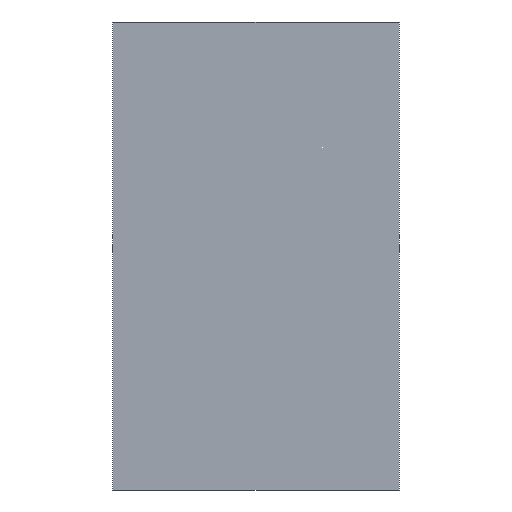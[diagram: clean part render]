
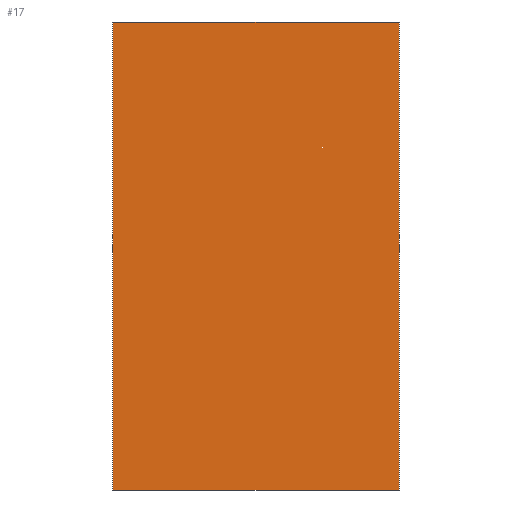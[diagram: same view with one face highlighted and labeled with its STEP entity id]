
A CAD part, left-side view. The second image highlights one B-rep face of the part: STEP entity #17.
In plain terms, the highlighted planar face has unit normal (-1, 0, 0).
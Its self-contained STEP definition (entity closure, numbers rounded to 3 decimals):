
#17 = ADVANCED_FACE('',(#18),#32,.F.);
#18 = FACE_BOUND('',#19,.F.);
#19 = EDGE_LOOP('',(#20,#55,#83,#111));
#20 = ORIENTED_EDGE('',*,*,#21,.F.);
#21 = EDGE_CURVE('',#22,#24,#26,.T.);
#22 = VERTEX_POINT('',#23);
#23 = CARTESIAN_POINT('',(-63.,-25.,-189.));
#24 = VERTEX_POINT('',#25);
#25 = CARTESIAN_POINT('',(-63.,-25.,-127.));
#26 = SURFACE_CURVE('',#27,(#31,#43),.PCURVE_S1.);
#27 = LINE('',#28,#29);
#28 = CARTESIAN_POINT('',(-63.,-25.,-189.));
#29 = VECTOR('',#30,1.);
#30 = DIRECTION('',(0.,0.,1.));
#31 = PCURVE('',#32,#37);
#32 = PLANE('',#33);
#33 = AXIS2_PLACEMENT_3D('',#34,#35,#36);
#34 = CARTESIAN_POINT('',(-63.,-25.,-189.));
#35 = DIRECTION('',(1.,0.,0.));
#36 = DIRECTION('',(0.,0.,1.));
#37 = DEFINITIONAL_REPRESENTATION('',(#38),#42);
#38 = LINE('',#39,#40);
#39 = CARTESIAN_POINT('',(0.,0.));
#40 = VECTOR('',#41,1.);
#41 = DIRECTION('',(1.,0.));
#42 = ( GEOMETRIC_REPRESENTATION_CONTEXT(2) 
PARAMETRIC_REPRESENTATION_CONTEXT() REPRESENTATION_CONTEXT('2D SPACE',''
  ) );
#43 = PCURVE('',#44,#49);
#44 = PLANE('',#45);
#45 = AXIS2_PLACEMENT_3D('',#46,#47,#48);
#46 = CARTESIAN_POINT('',(-63.,-25.,-189.));
#47 = DIRECTION('',(0.,1.,0.));
#48 = DIRECTION('',(0.,0.,1.));
#49 = DEFINITIONAL_REPRESENTATION('',(#50),#54);
#50 = LINE('',#51,#52);
#51 = CARTESIAN_POINT('',(0.,0.));
#52 = VECTOR('',#53,1.);
#53 = DIRECTION('',(1.,0.));
#54 = ( GEOMETRIC_REPRESENTATION_CONTEXT(2) 
PARAMETRIC_REPRESENTATION_CONTEXT() REPRESENTATION_CONTEXT('2D SPACE',''
  ) );
#55 = ORIENTED_EDGE('',*,*,#56,.T.);
#56 = EDGE_CURVE('',#22,#57,#59,.T.);
#57 = VERTEX_POINT('',#58);
#58 = CARTESIAN_POINT('',(-63.,13.,-189.));
#59 = SURFACE_CURVE('',#60,(#64,#71),.PCURVE_S1.);
#60 = LINE('',#61,#62);
#61 = CARTESIAN_POINT('',(-63.,-25.,-189.));
#62 = VECTOR('',#63,1.);
#63 = DIRECTION('',(0.,1.,0.));
#64 = PCURVE('',#32,#65);
#65 = DEFINITIONAL_REPRESENTATION('',(#66),#70);
#66 = LINE('',#67,#68);
#67 = CARTESIAN_POINT('',(0.,0.));
#68 = VECTOR('',#69,1.);
#69 = DIRECTION('',(0.,-1.));
#70 = ( GEOMETRIC_REPRESENTATION_CONTEXT(2) 
PARAMETRIC_REPRESENTATION_CONTEXT() REPRESENTATION_CONTEXT('2D SPACE',''
  ) );
#71 = PCURVE('',#72,#77);
#72 = PLANE('',#73);
#73 = AXIS2_PLACEMENT_3D('',#74,#75,#76);
#74 = CARTESIAN_POINT('',(-63.,-25.,-189.));
#75 = DIRECTION('',(0.,0.,1.));
#76 = DIRECTION('',(1.,0.,0.));
#77 = DEFINITIONAL_REPRESENTATION('',(#78),#82);
#78 = LINE('',#79,#80);
#79 = CARTESIAN_POINT('',(0.,0.));
#80 = VECTOR('',#81,1.);
#81 = DIRECTION('',(0.,1.));
#82 = ( GEOMETRIC_REPRESENTATION_CONTEXT(2) 
PARAMETRIC_REPRESENTATION_CONTEXT() REPRESENTATION_CONTEXT('2D SPACE',''
  ) );
#83 = ORIENTED_EDGE('',*,*,#84,.T.);
#84 = EDGE_CURVE('',#57,#85,#87,.T.);
#85 = VERTEX_POINT('',#86);
#86 = CARTESIAN_POINT('',(-63.,13.,-127.));
#87 = SURFACE_CURVE('',#88,(#92,#99),.PCURVE_S1.);
#88 = LINE('',#89,#90);
#89 = CARTESIAN_POINT('',(-63.,13.,-189.));
#90 = VECTOR('',#91,1.);
#91 = DIRECTION('',(0.,0.,1.));
#92 = PCURVE('',#32,#93);
#93 = DEFINITIONAL_REPRESENTATION('',(#94),#98);
#94 = LINE('',#95,#96);
#95 = CARTESIAN_POINT('',(0.,-38.));
#96 = VECTOR('',#97,1.);
#97 = DIRECTION('',(1.,0.));
#98 = ( GEOMETRIC_REPRESENTATION_CONTEXT(2) 
PARAMETRIC_REPRESENTATION_CONTEXT() REPRESENTATION_CONTEXT('2D SPACE',''
  ) );
#99 = PCURVE('',#100,#105);
#100 = PLANE('',#101);
#101 = AXIS2_PLACEMENT_3D('',#102,#103,#104);
#102 = CARTESIAN_POINT('',(-63.,13.,-189.));
#103 = DIRECTION('',(0.,1.,0.));
#104 = DIRECTION('',(0.,0.,1.));
#105 = DEFINITIONAL_REPRESENTATION('',(#106),#110);
#106 = LINE('',#107,#108);
#107 = CARTESIAN_POINT('',(0.,0.));
#108 = VECTOR('',#109,1.);
#109 = DIRECTION('',(1.,0.));
#110 = ( GEOMETRIC_REPRESENTATION_CONTEXT(2) 
PARAMETRIC_REPRESENTATION_CONTEXT() REPRESENTATION_CONTEXT('2D SPACE',''
  ) );
#111 = ORIENTED_EDGE('',*,*,#112,.F.);
#112 = EDGE_CURVE('',#24,#85,#113,.T.);
#113 = SURFACE_CURVE('',#114,(#118,#125),.PCURVE_S1.);
#114 = LINE('',#115,#116);
#115 = CARTESIAN_POINT('',(-63.,-25.,-127.));
#116 = VECTOR('',#117,1.);
#117 = DIRECTION('',(0.,1.,0.));
#118 = PCURVE('',#32,#119);
#119 = DEFINITIONAL_REPRESENTATION('',(#120),#124);
#120 = LINE('',#121,#122);
#121 = CARTESIAN_POINT('',(62.,0.));
#122 = VECTOR('',#123,1.);
#123 = DIRECTION('',(0.,-1.));
#124 = ( GEOMETRIC_REPRESENTATION_CONTEXT(2) 
PARAMETRIC_REPRESENTATION_CONTEXT() REPRESENTATION_CONTEXT('2D SPACE',''
  ) );
#125 = PCURVE('',#126,#131);
#126 = PLANE('',#127);
#127 = AXIS2_PLACEMENT_3D('',#128,#129,#130);
#128 = CARTESIAN_POINT('',(-63.,-25.,-127.));
#129 = DIRECTION('',(0.,0.,1.));
#130 = DIRECTION('',(1.,0.,0.));
#131 = DEFINITIONAL_REPRESENTATION('',(#132),#136);
#132 = LINE('',#133,#134);
#133 = CARTESIAN_POINT('',(0.,0.));
#134 = VECTOR('',#135,1.);
#135 = DIRECTION('',(0.,1.));
#136 = ( GEOMETRIC_REPRESENTATION_CONTEXT(2) 
PARAMETRIC_REPRESENTATION_CONTEXT() REPRESENTATION_CONTEXT('2D SPACE',''
  ) );
